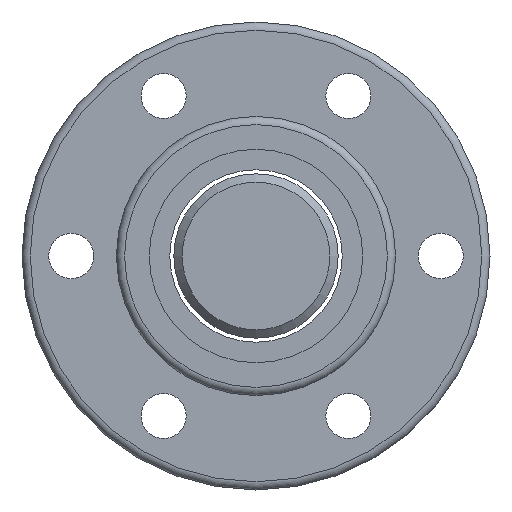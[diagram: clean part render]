
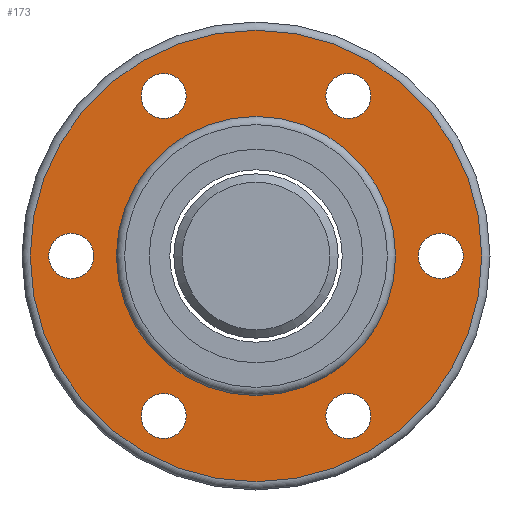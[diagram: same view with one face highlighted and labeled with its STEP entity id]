
A CAD part, left-side view. The second image highlights one B-rep face of the part: STEP entity #173.
In plain terms, the highlighted planar face has unit normal (-1, 0, 0).
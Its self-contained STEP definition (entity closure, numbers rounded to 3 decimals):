
#114=PLANE('',#803);
#135=FACE_OUTER_BOUND('',#374,.T.);
#173=ADVANCED_FACE('',(#263,#264,#265,#266,#267,#268,#269,#135),#114,.F.);
#263=FACE_BOUND('',#367,.T.);
#264=FACE_BOUND('',#368,.T.);
#265=FACE_BOUND('',#369,.T.);
#266=FACE_BOUND('',#370,.T.);
#267=FACE_BOUND('',#371,.T.);
#268=FACE_BOUND('',#372,.T.);
#269=FACE_BOUND('',#373,.T.);
#367=EDGE_LOOP('',(#489));
#368=EDGE_LOOP('',(#490));
#369=EDGE_LOOP('',(#491));
#370=EDGE_LOOP('',(#492));
#371=EDGE_LOOP('',(#493));
#372=EDGE_LOOP('',(#494));
#373=EDGE_LOOP('',(#495));
#374=EDGE_LOOP('',(#496));
#489=ORIENTED_EDGE('',*,*,#660,.T.);
#490=ORIENTED_EDGE('',*,*,#661,.T.);
#491=ORIENTED_EDGE('',*,*,#662,.T.);
#492=ORIENTED_EDGE('',*,*,#663,.T.);
#493=ORIENTED_EDGE('',*,*,#664,.T.);
#494=ORIENTED_EDGE('',*,*,#665,.T.);
#495=ORIENTED_EDGE('',*,*,#666,.F.);
#496=ORIENTED_EDGE('',*,*,#658,.T.);
#597=VERTEX_POINT('',#1160);
#599=VERTEX_POINT('',#1165);
#600=VERTEX_POINT('',#1167);
#601=VERTEX_POINT('',#1169);
#602=VERTEX_POINT('',#1171);
#603=VERTEX_POINT('',#1173);
#604=VERTEX_POINT('',#1175);
#605=VERTEX_POINT('',#1177);
#658=EDGE_CURVE('',#597,#597,#719,.T.);
#660=EDGE_CURVE('',#599,#599,#721,.T.);
#661=EDGE_CURVE('',#600,#600,#722,.T.);
#662=EDGE_CURVE('',#601,#601,#723,.T.);
#663=EDGE_CURVE('',#602,#602,#724,.T.);
#664=EDGE_CURVE('',#603,#603,#725,.T.);
#665=EDGE_CURVE('',#604,#604,#726,.T.);
#666=EDGE_CURVE('',#605,#605,#727,.T.);
#719=CIRCLE('',#793,27.5);
#721=CIRCLE('',#796,2.75);
#722=CIRCLE('',#797,2.75);
#723=CIRCLE('',#798,2.75);
#724=CIRCLE('',#799,2.75);
#725=CIRCLE('',#800,2.75);
#726=CIRCLE('',#801,2.75);
#727=CIRCLE('',#802,17.);
#793=AXIS2_PLACEMENT_3D('',#1159,#936,#937);
#796=AXIS2_PLACEMENT_3D('',#1164,#942,#943);
#797=AXIS2_PLACEMENT_3D('',#1166,#944,#945);
#798=AXIS2_PLACEMENT_3D('',#1168,#946,#947);
#799=AXIS2_PLACEMENT_3D('',#1170,#948,#949);
#800=AXIS2_PLACEMENT_3D('',#1172,#950,#951);
#801=AXIS2_PLACEMENT_3D('',#1174,#952,#953);
#802=AXIS2_PLACEMENT_3D('',#1176,#954,#955);
#803=AXIS2_PLACEMENT_3D('',#1178,#956,#957);
#936=DIRECTION('',(-1.,0.,0.));
#937=DIRECTION('',(0.,0.,1.));
#942=DIRECTION('',(1.,0.,0.));
#943=DIRECTION('',(0.,0.,-1.));
#944=DIRECTION('',(1.,0.,0.));
#945=DIRECTION('',(0.,0.,-1.));
#946=DIRECTION('',(1.,0.,0.));
#947=DIRECTION('',(0.,0.,-1.));
#948=DIRECTION('',(1.,0.,0.));
#949=DIRECTION('',(0.,0.,-1.));
#950=DIRECTION('',(1.,0.,0.));
#951=DIRECTION('',(0.,0.,-1.));
#952=DIRECTION('',(1.,0.,0.));
#953=DIRECTION('',(0.,0.,-1.));
#954=DIRECTION('',(-1.,0.,0.));
#955=DIRECTION('',(0.,0.,1.));
#956=DIRECTION('',(1.,0.,0.));
#957=DIRECTION('',(0.,0.,-1.));
#1159=CARTESIAN_POINT('',(-26.,0.,0.));
#1160=CARTESIAN_POINT('',(-26.,0.,27.5));
#1164=CARTESIAN_POINT('',(-26.,11.25,-19.486));
#1165=CARTESIAN_POINT('',(-26.,11.25,-22.236));
#1166=CARTESIAN_POINT('',(-26.,-11.25,-19.486));
#1167=CARTESIAN_POINT('',(-26.,-11.25,-22.236));
#1168=CARTESIAN_POINT('',(-26.,-22.5,0.));
#1169=CARTESIAN_POINT('',(-26.,-22.5,-2.75));
#1170=CARTESIAN_POINT('',(-26.,-11.25,19.486));
#1171=CARTESIAN_POINT('',(-26.,-11.25,16.736));
#1172=CARTESIAN_POINT('',(-26.,11.25,19.486));
#1173=CARTESIAN_POINT('',(-26.,11.25,16.736));
#1174=CARTESIAN_POINT('',(-26.,22.5,0.));
#1175=CARTESIAN_POINT('',(-26.,22.5,-2.75));
#1176=CARTESIAN_POINT('',(-26.,0.,0.));
#1177=CARTESIAN_POINT('',(-26.,0.,17.));
#1178=CARTESIAN_POINT('',(-26.,22.25,0.));
